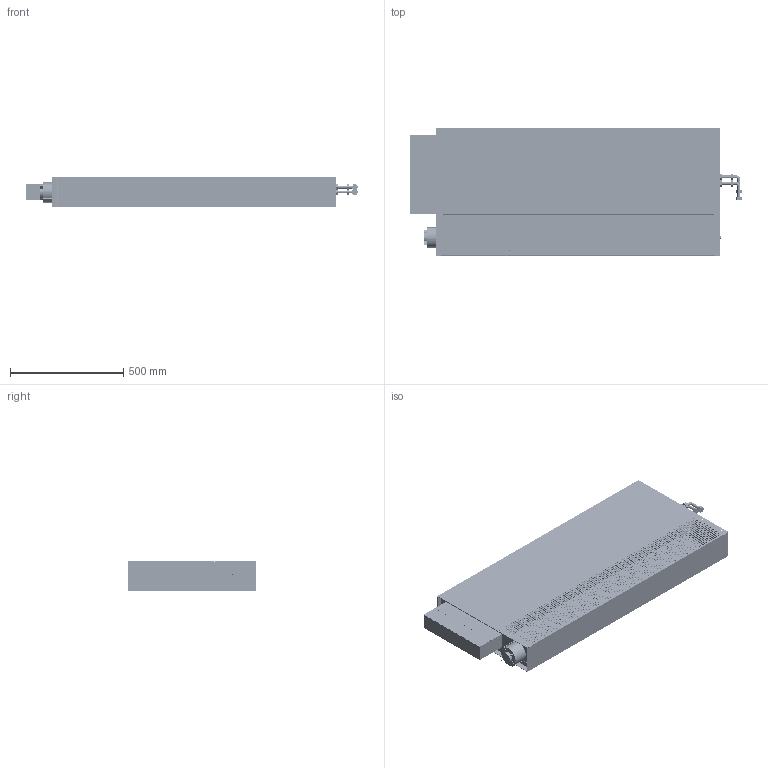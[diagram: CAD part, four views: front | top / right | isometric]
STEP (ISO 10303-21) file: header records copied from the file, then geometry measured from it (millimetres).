
FILE_DESCRIPTION (( 'STEP AP214' ), '1' );
FILE_NAME ('PFWSLA-05-2pipe_v2.STEP', '2024-10-20T16:50:58', ( '' ), ( '' ), 'SwSTEP 2.0', 'SolidWorks 2023', '' );
FILE_SCHEMA (( 'AUTOMOTIVE_DESIGN' ));
Length unit declared in the file: inch
Products named in the file (1): PFWSLA-05-2pipe_v2
Bounding box: 1468.52 x 561.98 x 130.18 mm (x, y, z)
Volume: 23851138.1 mm3; surface area: 5606884.1 mm2
Topology: 24 solids, 24 shells, 6468 faces, 17988 edges, 11976 vertices
Faces by surface type: plane 3894, cylinder 2570, torus 4
Entity records: 211332 total; most frequent: CARTESIAN_POINT 36433, DIRECTION 36082, ORIENTED_EDGE 35976, EDGE_CURVE 17988, LINE 12832, VECTOR 12832, VERTEX_POINT 11976, AXIS2_PLACEMENT_3D 11625
